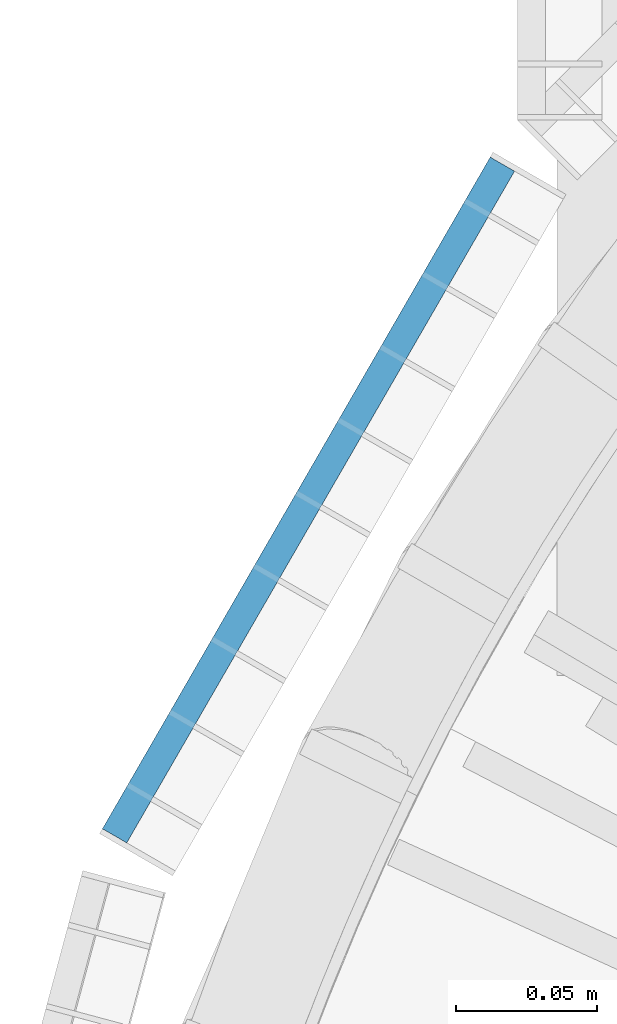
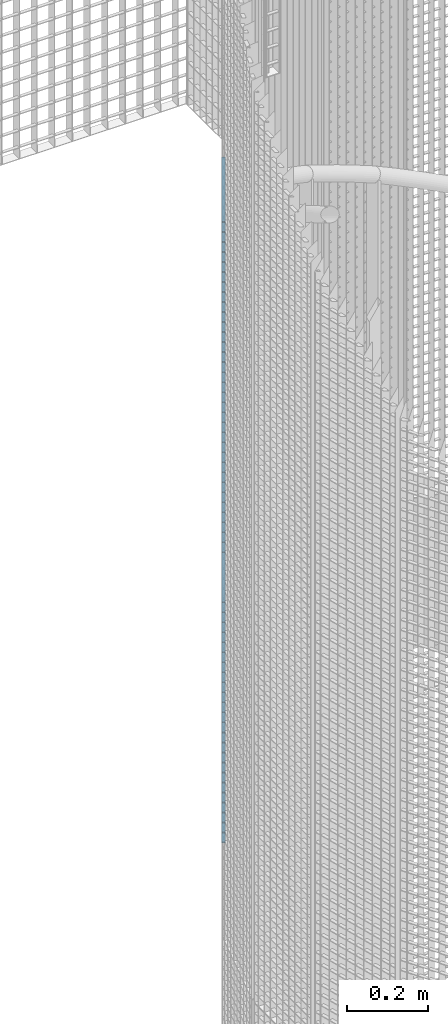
# One storey, part 208 of 1183: 59 beams, 1 element without a shape of its own.
"""IFC2X3 building model written with IfcOpenShell, lengths in millimetres."""

from ifc_helpers import new_model, si_unit, frame, origin_with_axes, origin_2d_with_axis, place, context, subcontext, project, spatial, rectangle, extrude, material, type_object, element, aggregate, save


model = new_model("IFC2X3")

# Units and contexts
model_context = context("Model", 3, precision=1e-05, world=origin_with_axes())
body_context = subcontext(model_context, "Body", "Model", "MODEL_VIEW")
ifc_project = project(units=[si_unit("LENGTHUNIT", "METRE", prefix="MILLI"), si_unit("AREAUNIT", "SQUARE_METRE"), si_unit("VOLUMEUNIT", "CUBIC_METRE"), si_unit("MASSUNIT", "GRAM", prefix="KILO"), si_unit("TIMEUNIT", "SECOND"), si_unit("PLANEANGLEUNIT", "RADIAN"), si_unit("SOLIDANGLEUNIT", "STERADIAN"), si_unit("THERMODYNAMICTEMPERATUREUNIT", "DEGREE_CELSIUS"), si_unit("LUMINOUSINTENSITYUNIT", "LUMEN")], contexts=[model_context])

# Site, building, storey
site_placement = place(None, origin_with_axes())
site = spatial("IfcSite", under=ifc_project, at=site_placement, Name="Undefined", CompositionType="ELEMENT")
building_placement = place(site_placement, origin_with_axes())
building = spatial("IfcBuilding", under=site, at=building_placement, Name="Undefined", CompositionType="ELEMENT")
storey_placement = place(building_placement, origin_with_axes())
storey = spatial("IfcBuildingStorey", under=building, at=storey_placement, Name="Undefined", CompositionType="ELEMENT", Elevation=0.0)

# Assembly, beams
assembly_placement = place(storey_placement, origin_with_axes())
assembly = element("IfcElementAssembly", 1, at=assembly_placement, inside=storey, Name="BORDURE", AssemblyPlace="NOTDEFINED", PredefinedType="NOTDEFINED")
ifc_material = material(Name="STEEL/S235JR")
beam_type = type_object("IfcBeamType", Name="PL2*10", PredefinedType="NOTDEFINED")
beam_1_placement = place(assembly_placement, frame((-895.303964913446, 676.248044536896, 5130.0), z_axis=(-0.866025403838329, 0.499999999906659, 0.0), x_axis=(-0.49999999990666, -0.866025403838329, 0.0)))
beam_1 = element("IfcBeam", 2, at=beam_1_placement, type_object=beam_type, material=ifc_material, Name="ENTRETOISE", context=body_context, shape_type="SweptSolid", body=[
    extrude(rectangle(XDim=2.0, YDim=10.0, at=origin_2d_with_axis()), frame((275.999999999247, 9.09494701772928e-13, 1.53210777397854e-14), z_axis=(-1.0, 0.0, 0.0), x_axis=(0.0, -1.0, 0.0)), (0.0, 0.0, 1.0), 276.0),
])
beam_2_placement = place(assembly_placement, frame((-895.303964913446, 676.248044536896, 5100.0), z_axis=(-0.866025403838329, 0.499999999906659, 0.0), x_axis=(-0.49999999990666, -0.866025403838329, 0.0)))
beam_2 = element("IfcBeam", 3, at=beam_2_placement, type_object=beam_type, material=ifc_material, Name="ENTRETOISE", context=body_context, shape_type="SweptSolid", body=[
    extrude(rectangle(XDim=2.0, YDim=10.0, at=origin_2d_with_axis()), frame((275.999999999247, 9.09494701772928e-13, 1.53210777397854e-14), z_axis=(-1.0, 0.0, 0.0), x_axis=(0.0, -1.0, 0.0)), (0.0, 0.0, 1.0), 276.0),
])
beam_3_placement = place(assembly_placement, frame((-895.303964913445, 676.248044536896, 5070.0), z_axis=(-0.866025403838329, 0.499999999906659, 0.0), x_axis=(-0.49999999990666, -0.866025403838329, 0.0)))
beam_3 = element("IfcBeam", 4, at=beam_3_placement, type_object=beam_type, material=ifc_material, Name="ENTRETOISE", context=body_context, shape_type="SweptSolid", body=[
    extrude(rectangle(XDim=2.0, YDim=10.0, at=origin_2d_with_axis()), frame((275.999999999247, 9.09494701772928e-13, 1.53210777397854e-14), z_axis=(-1.0, 0.0, 0.0), x_axis=(0.0, -1.0, 0.0)), (0.0, 0.0, 1.0), 276.0),
])
beam_4_placement = place(assembly_placement, frame((-895.303964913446, 676.248044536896, 5040.0), z_axis=(-0.866025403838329, 0.499999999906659, 0.0), x_axis=(-0.49999999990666, -0.866025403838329, 0.0)))
beam_4 = element("IfcBeam", 5, at=beam_4_placement, type_object=beam_type, material=ifc_material, Name="ENTRETOISE", context=body_context, shape_type="SweptSolid", body=[
    extrude(rectangle(XDim=2.0, YDim=10.0, at=origin_2d_with_axis()), frame((275.999999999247, 9.09494701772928e-13, 1.53210777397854e-14), z_axis=(-1.0, 0.0, 0.0), x_axis=(0.0, -1.0, 0.0)), (0.0, 0.0, 1.0), 276.0),
])
beam_5_placement = place(assembly_placement, frame((-895.303964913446, 676.248044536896, 5010.0), z_axis=(-0.866025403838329, 0.499999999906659, 0.0), x_axis=(-0.49999999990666, -0.866025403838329, 0.0)))
beam_5 = element("IfcBeam", 6, at=beam_5_placement, type_object=beam_type, material=ifc_material, Name="ENTRETOISE", context=body_context, shape_type="SweptSolid", body=[
    extrude(rectangle(XDim=2.0, YDim=10.0, at=origin_2d_with_axis()), frame((275.999999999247, 9.09494701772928e-13, 1.53210777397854e-14), z_axis=(-1.0, 0.0, 0.0), x_axis=(0.0, -1.0, 0.0)), (0.0, 0.0, 1.0), 276.0),
])
beam_6_placement = place(assembly_placement, frame((-895.303964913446, 676.248044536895, 4980.0), z_axis=(-0.866025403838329, 0.499999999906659, 0.0), x_axis=(-0.49999999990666, -0.866025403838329, 0.0)))
beam_6 = element("IfcBeam", 7, at=beam_6_placement, type_object=beam_type, material=ifc_material, Name="ENTRETOISE", context=body_context, shape_type="SweptSolid", body=[
    extrude(rectangle(XDim=2.0, YDim=10.0, at=origin_2d_with_axis()), frame((275.999999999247, 9.09494701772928e-13, 1.53210777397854e-14), z_axis=(-1.0, 0.0, 0.0), x_axis=(0.0, -1.0, 0.0)), (0.0, 0.0, 1.0), 276.0),
])
beam_7_placement = place(assembly_placement, frame((-895.303964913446, 676.248044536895, 4950.0), z_axis=(-0.866025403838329, 0.499999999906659, 0.0), x_axis=(-0.49999999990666, -0.866025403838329, 0.0)))
beam_7 = element("IfcBeam", 8, at=beam_7_placement, type_object=beam_type, material=ifc_material, Name="ENTRETOISE", context=body_context, shape_type="SweptSolid", body=[
    extrude(rectangle(XDim=2.0, YDim=10.0, at=origin_2d_with_axis()), frame((275.999999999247, 9.09494701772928e-13, 1.53210777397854e-14), z_axis=(-1.0, 0.0, 0.0), x_axis=(0.0, -1.0, 0.0)), (0.0, 0.0, 1.0), 276.0),
])
beam_8_placement = place(assembly_placement, frame((-895.303964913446, 676.248044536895, 4920.0), z_axis=(-0.866025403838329, 0.499999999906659, 0.0), x_axis=(-0.49999999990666, -0.866025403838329, 0.0)))
beam_8 = element("IfcBeam", 9, at=beam_8_placement, type_object=beam_type, material=ifc_material, Name="ENTRETOISE", context=body_context, shape_type="SweptSolid", body=[
    extrude(rectangle(XDim=2.0, YDim=10.0, at=origin_2d_with_axis()), frame((275.999999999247, 9.09494701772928e-13, 1.53210777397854e-14), z_axis=(-1.0, 0.0, 0.0), x_axis=(0.0, -1.0, 0.0)), (0.0, 0.0, 1.0), 276.0),
])
beam_9_placement = place(assembly_placement, frame((-895.303964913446, 676.248044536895, 4890.0), z_axis=(-0.866025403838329, 0.499999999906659, 0.0), x_axis=(-0.49999999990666, -0.866025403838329, 0.0)))
beam_9 = element("IfcBeam", 10, at=beam_9_placement, type_object=beam_type, material=ifc_material, Name="ENTRETOISE", context=body_context, shape_type="SweptSolid", body=[
    extrude(rectangle(XDim=2.0, YDim=10.0, at=origin_2d_with_axis()), frame((275.999999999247, 9.09494701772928e-13, 1.53210777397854e-14), z_axis=(-1.0, 0.0, 0.0), x_axis=(0.0, -1.0, 0.0)), (0.0, 0.0, 1.0), 276.0),
])
beam_10_placement = place(assembly_placement, frame((-895.303964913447, 676.248044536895, 4860.0), z_axis=(-0.866025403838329, 0.499999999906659, 0.0), x_axis=(-0.49999999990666, -0.866025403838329, 0.0)))
beam_10 = element("IfcBeam", 11, at=beam_10_placement, type_object=beam_type, material=ifc_material, Name="ENTRETOISE", context=body_context, shape_type="SweptSolid", body=[
    extrude(rectangle(XDim=2.0, YDim=10.0, at=origin_2d_with_axis()), frame((275.999999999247, 9.09494701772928e-13, 1.53210777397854e-14), z_axis=(-1.0, 0.0, 0.0), x_axis=(0.0, -1.0, 0.0)), (0.0, 0.0, 1.0), 276.0),
])
beam_11_placement = place(assembly_placement, frame((-895.303964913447, 676.248044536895, 4830.0), z_axis=(-0.866025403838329, 0.499999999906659, 0.0), x_axis=(-0.49999999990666, -0.866025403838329, 0.0)))
beam_11 = element("IfcBeam", 12, at=beam_11_placement, type_object=beam_type, material=ifc_material, Name="ENTRETOISE", context=body_context, shape_type="SweptSolid", body=[
    extrude(rectangle(XDim=2.0, YDim=10.0, at=origin_2d_with_axis()), frame((275.999999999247, 9.09494701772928e-13, 1.53210777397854e-14), z_axis=(-1.0, 0.0, 0.0), x_axis=(0.0, -1.0, 0.0)), (0.0, 0.0, 1.0), 276.0),
])
beam_12_placement = place(assembly_placement, frame((-895.303964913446, 676.248044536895, 4800.0), z_axis=(-0.866025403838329, 0.499999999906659, 0.0), x_axis=(-0.49999999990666, -0.866025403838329, 0.0)))
beam_12 = element("IfcBeam", 13, at=beam_12_placement, type_object=beam_type, material=ifc_material, Name="ENTRETOISE", context=body_context, shape_type="SweptSolid", body=[
    extrude(rectangle(XDim=2.0, YDim=10.0, at=origin_2d_with_axis()), frame((275.999999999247, 9.09494701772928e-13, 1.53210777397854e-14), z_axis=(-1.0, 0.0, 0.0), x_axis=(0.0, -1.0, 0.0)), (0.0, 0.0, 1.0), 276.0),
])
beam_13_placement = place(assembly_placement, frame((-895.303964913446, 676.248044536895, 4770.0), z_axis=(-0.866025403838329, 0.499999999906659, 0.0), x_axis=(-0.49999999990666, -0.866025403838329, 0.0)))
beam_13 = element("IfcBeam", 14, at=beam_13_placement, type_object=beam_type, material=ifc_material, Name="ENTRETOISE", context=body_context, shape_type="SweptSolid", body=[
    extrude(rectangle(XDim=2.0, YDim=10.0, at=origin_2d_with_axis()), frame((275.999999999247, 9.09494701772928e-13, 1.53210777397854e-14), z_axis=(-1.0, 0.0, 0.0), x_axis=(0.0, -1.0, 0.0)), (0.0, 0.0, 1.0), 276.0),
])
beam_14_placement = place(assembly_placement, frame((-895.303964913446, 676.248044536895, 4740.0), z_axis=(-0.866025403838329, 0.499999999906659, 0.0), x_axis=(-0.49999999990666, -0.866025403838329, 0.0)))
beam_14 = element("IfcBeam", 15, at=beam_14_placement, type_object=beam_type, material=ifc_material, Name="ENTRETOISE", context=body_context, shape_type="SweptSolid", body=[
    extrude(rectangle(XDim=2.0, YDim=10.0, at=origin_2d_with_axis()), frame((275.999999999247, 9.09494701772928e-13, 1.53210777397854e-14), z_axis=(-1.0, 0.0, 0.0), x_axis=(0.0, -1.0, 0.0)), (0.0, 0.0, 1.0), 276.0),
])
beam_15_placement = place(assembly_placement, frame((-895.303964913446, 676.248044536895, 4710.0), z_axis=(-0.866025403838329, 0.499999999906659, 0.0), x_axis=(-0.49999999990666, -0.866025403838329, 0.0)))
beam_15 = element("IfcBeam", 16, at=beam_15_placement, type_object=beam_type, material=ifc_material, Name="ENTRETOISE", context=body_context, shape_type="SweptSolid", body=[
    extrude(rectangle(XDim=2.0, YDim=10.0, at=origin_2d_with_axis()), frame((275.999999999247, 9.09494701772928e-13, 1.53210777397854e-14), z_axis=(-1.0, 0.0, 0.0), x_axis=(0.0, -1.0, 0.0)), (0.0, 0.0, 1.0), 276.0),
])
beam_16_placement = place(assembly_placement, frame((-895.303964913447, 676.248044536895, 4680.0), z_axis=(-0.866025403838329, 0.499999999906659, 0.0), x_axis=(-0.49999999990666, -0.866025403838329, 0.0)))
beam_16 = element("IfcBeam", 17, at=beam_16_placement, type_object=beam_type, material=ifc_material, Name="ENTRETOISE", context=body_context, shape_type="SweptSolid", body=[
    extrude(rectangle(XDim=2.0, YDim=10.0, at=origin_2d_with_axis()), frame((275.999999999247, 9.09494701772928e-13, 1.53210777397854e-14), z_axis=(-1.0, 0.0, 0.0), x_axis=(0.0, -1.0, 0.0)), (0.0, 0.0, 1.0), 276.0),
])
beam_17_placement = place(assembly_placement, frame((-895.303964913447, 676.248044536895, 4650.0), z_axis=(-0.866025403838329, 0.499999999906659, 0.0), x_axis=(-0.49999999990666, -0.866025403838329, 0.0)))
beam_17 = element("IfcBeam", 18, at=beam_17_placement, type_object=beam_type, material=ifc_material, Name="ENTRETOISE", context=body_context, shape_type="SweptSolid", body=[
    extrude(rectangle(XDim=2.0, YDim=10.0, at=origin_2d_with_axis()), frame((275.999999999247, 9.09494701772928e-13, 1.53210777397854e-14), z_axis=(-1.0, 0.0, 0.0), x_axis=(0.0, -1.0, 0.0)), (0.0, 0.0, 1.0), 276.0),
])
beam_18_placement = place(assembly_placement, frame((-895.303964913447, 676.248044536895, 4620.0), z_axis=(-0.866025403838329, 0.499999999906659, 0.0), x_axis=(-0.49999999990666, -0.866025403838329, 0.0)))
beam_18 = element("IfcBeam", 19, at=beam_18_placement, type_object=beam_type, material=ifc_material, Name="ENTRETOISE", context=body_context, shape_type="SweptSolid", body=[
    extrude(rectangle(XDim=2.0, YDim=10.0, at=origin_2d_with_axis()), frame((275.999999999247, 9.09494701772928e-13, 1.53210777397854e-14), z_axis=(-1.0, 0.0, 0.0), x_axis=(0.0, -1.0, 0.0)), (0.0, 0.0, 1.0), 276.0),
])
beam_19_placement = place(assembly_placement, frame((-895.303964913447, 676.248044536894, 4590.0), z_axis=(-0.866025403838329, 0.499999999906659, 0.0), x_axis=(-0.49999999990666, -0.866025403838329, 0.0)))
beam_19 = element("IfcBeam", 20, at=beam_19_placement, type_object=beam_type, material=ifc_material, Name="ENTRETOISE", context=body_context, shape_type="SweptSolid", body=[
    extrude(rectangle(XDim=2.0, YDim=10.0, at=origin_2d_with_axis()), frame((275.999999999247, 9.09494701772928e-13, 1.53210777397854e-14), z_axis=(-1.0, 0.0, 0.0), x_axis=(0.0, -1.0, 0.0)), (0.0, 0.0, 1.0), 276.0),
])
beam_20_placement = place(assembly_placement, frame((-895.303964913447, 676.248044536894, 4560.0), z_axis=(-0.866025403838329, 0.499999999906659, 0.0), x_axis=(-0.49999999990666, -0.866025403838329, 0.0)))
beam_20 = element("IfcBeam", 21, at=beam_20_placement, type_object=beam_type, material=ifc_material, Name="ENTRETOISE", context=body_context, shape_type="SweptSolid", body=[
    extrude(rectangle(XDim=2.0, YDim=10.0, at=origin_2d_with_axis()), frame((275.999999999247, 9.09494701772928e-13, 1.53210777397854e-14), z_axis=(-1.0, 0.0, 0.0), x_axis=(0.0, -1.0, 0.0)), (0.0, 0.0, 1.0), 276.0),
])
beam_21_placement = place(assembly_placement, frame((-895.303964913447, 676.248044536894, 4530.0), z_axis=(-0.866025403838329, 0.499999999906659, 0.0), x_axis=(-0.49999999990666, -0.866025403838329, 0.0)))
beam_21 = element("IfcBeam", 22, at=beam_21_placement, type_object=beam_type, material=ifc_material, Name="ENTRETOISE", context=body_context, shape_type="SweptSolid", body=[
    extrude(rectangle(XDim=2.0, YDim=10.0, at=origin_2d_with_axis()), frame((275.999999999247, 9.09494701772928e-13, 1.53210777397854e-14), z_axis=(-1.0, 0.0, 0.0), x_axis=(0.0, -1.0, 0.0)), (0.0, 0.0, 1.0), 276.0),
])
beam_22_placement = place(assembly_placement, frame((-895.303964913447, 676.248044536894, 4500.0), z_axis=(-0.866025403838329, 0.499999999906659, 0.0), x_axis=(-0.49999999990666, -0.866025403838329, 0.0)))
beam_22 = element("IfcBeam", 23, at=beam_22_placement, type_object=beam_type, material=ifc_material, Name="ENTRETOISE", context=body_context, shape_type="SweptSolid", body=[
    extrude(rectangle(XDim=2.0, YDim=10.0, at=origin_2d_with_axis()), frame((275.999999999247, 9.09494701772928e-13, 1.53210777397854e-14), z_axis=(-1.0, 0.0, 0.0), x_axis=(0.0, -1.0, 0.0)), (0.0, 0.0, 1.0), 276.0),
])
beam_23_placement = place(assembly_placement, frame((-895.303964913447, 676.248044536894, 4470.0), z_axis=(-0.866025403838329, 0.499999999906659, 0.0), x_axis=(-0.49999999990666, -0.866025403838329, 0.0)))
beam_23 = element("IfcBeam", 24, at=beam_23_placement, type_object=beam_type, material=ifc_material, Name="ENTRETOISE", context=body_context, shape_type="SweptSolid", body=[
    extrude(rectangle(XDim=2.0, YDim=10.0, at=origin_2d_with_axis()), frame((275.999999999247, 9.09494701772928e-13, 1.53210777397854e-14), z_axis=(-1.0, 0.0, 0.0), x_axis=(0.0, -1.0, 0.0)), (0.0, 0.0, 1.0), 276.0),
])
beam_24_placement = place(assembly_placement, frame((-895.303964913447, 676.248044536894, 4440.0), z_axis=(-0.866025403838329, 0.499999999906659, 0.0), x_axis=(-0.49999999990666, -0.866025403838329, 0.0)))
beam_24 = element("IfcBeam", 25, at=beam_24_placement, type_object=beam_type, material=ifc_material, Name="ENTRETOISE", context=body_context, shape_type="SweptSolid", body=[
    extrude(rectangle(XDim=2.0, YDim=10.0, at=origin_2d_with_axis()), frame((275.999999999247, 9.09494701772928e-13, 1.53210777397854e-14), z_axis=(-1.0, 0.0, 0.0), x_axis=(0.0, -1.0, 0.0)), (0.0, 0.0, 1.0), 276.0),
])
beam_25_placement = place(assembly_placement, frame((-895.303964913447, 676.248044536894, 4410.0), z_axis=(-0.866025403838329, 0.499999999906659, 0.0), x_axis=(-0.49999999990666, -0.866025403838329, 0.0)))
beam_25 = element("IfcBeam", 26, at=beam_25_placement, type_object=beam_type, material=ifc_material, Name="ENTRETOISE", context=body_context, shape_type="SweptSolid", body=[
    extrude(rectangle(XDim=2.0, YDim=10.0, at=origin_2d_with_axis()), frame((275.999999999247, 9.09494701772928e-13, 1.53210777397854e-14), z_axis=(-1.0, 0.0, 0.0), x_axis=(0.0, -1.0, 0.0)), (0.0, 0.0, 1.0), 276.0),
])
beam_26_placement = place(assembly_placement, frame((-895.303964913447, 676.248044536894, 4380.0), z_axis=(-0.866025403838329, 0.499999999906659, 0.0), x_axis=(-0.49999999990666, -0.866025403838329, 0.0)))
beam_26 = element("IfcBeam", 27, at=beam_26_placement, type_object=beam_type, material=ifc_material, Name="ENTRETOISE", context=body_context, shape_type="SweptSolid", body=[
    extrude(rectangle(XDim=2.0, YDim=10.0, at=origin_2d_with_axis()), frame((275.999999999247, 9.09494701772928e-13, 1.53210777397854e-14), z_axis=(-1.0, 0.0, 0.0), x_axis=(0.0, -1.0, 0.0)), (0.0, 0.0, 1.0), 276.0),
])
beam_27_placement = place(assembly_placement, frame((-895.303964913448, 676.248044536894, 4350.0), z_axis=(-0.866025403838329, 0.499999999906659, 0.0), x_axis=(-0.49999999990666, -0.866025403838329, 0.0)))
beam_27 = element("IfcBeam", 28, at=beam_27_placement, type_object=beam_type, material=ifc_material, Name="ENTRETOISE", context=body_context, shape_type="SweptSolid", body=[
    extrude(rectangle(XDim=2.0, YDim=10.0, at=origin_2d_with_axis()), frame((275.999999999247, 9.09494701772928e-13, 1.53210777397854e-14), z_axis=(-1.0, 0.0, 0.0), x_axis=(0.0, -1.0, 0.0)), (0.0, 0.0, 1.0), 276.0),
])
beam_28_placement = place(assembly_placement, frame((-895.303964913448, 676.248044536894, 4320.0), z_axis=(-0.866025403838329, 0.499999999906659, 0.0), x_axis=(-0.49999999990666, -0.866025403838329, 0.0)))
beam_28 = element("IfcBeam", 29, at=beam_28_placement, type_object=beam_type, material=ifc_material, Name="ENTRETOISE", context=body_context, shape_type="SweptSolid", body=[
    extrude(rectangle(XDim=2.0, YDim=10.0, at=origin_2d_with_axis()), frame((275.999999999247, 9.09494701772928e-13, 1.53210777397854e-14), z_axis=(-1.0, 0.0, 0.0), x_axis=(0.0, -1.0, 0.0)), (0.0, 0.0, 1.0), 276.0),
])
beam_29_placement = place(assembly_placement, frame((-895.303964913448, 676.248044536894, 4290.0), z_axis=(-0.866025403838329, 0.499999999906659, 0.0), x_axis=(-0.49999999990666, -0.866025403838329, 0.0)))
beam_29 = element("IfcBeam", 30, at=beam_29_placement, type_object=beam_type, material=ifc_material, Name="ENTRETOISE", context=body_context, shape_type="SweptSolid", body=[
    extrude(rectangle(XDim=2.0, YDim=10.0, at=origin_2d_with_axis()), frame((275.999999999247, 9.09494701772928e-13, 1.53210777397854e-14), z_axis=(-1.0, 0.0, 0.0), x_axis=(0.0, -1.0, 0.0)), (0.0, 0.0, 1.0), 276.0),
])
beam_30_placement = place(assembly_placement, frame((-895.303964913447, 676.248044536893, 4260.0), z_axis=(-0.866025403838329, 0.499999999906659, 0.0), x_axis=(-0.49999999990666, -0.866025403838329, 0.0)))
beam_30 = element("IfcBeam", 31, at=beam_30_placement, type_object=beam_type, material=ifc_material, Name="ENTRETOISE", context=body_context, shape_type="SweptSolid", body=[
    extrude(rectangle(XDim=2.0, YDim=10.0, at=origin_2d_with_axis()), frame((275.999999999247, 9.09494701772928e-13, 1.53210777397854e-14), z_axis=(-1.0, 0.0, 0.0), x_axis=(0.0, -1.0, 0.0)), (0.0, 0.0, 1.0), 276.0),
])
beam_31_placement = place(assembly_placement, frame((-895.303964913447, 676.248044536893, 4230.0), z_axis=(-0.866025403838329, 0.499999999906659, 0.0), x_axis=(-0.49999999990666, -0.866025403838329, 0.0)))
beam_31 = element("IfcBeam", 32, at=beam_31_placement, type_object=beam_type, material=ifc_material, Name="ENTRETOISE", context=body_context, shape_type="SweptSolid", body=[
    extrude(rectangle(XDim=2.0, YDim=10.0, at=origin_2d_with_axis()), frame((275.999999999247, 9.09494701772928e-13, 1.53210777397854e-14), z_axis=(-1.0, 0.0, 0.0), x_axis=(0.0, -1.0, 0.0)), (0.0, 0.0, 1.0), 276.0),
])
beam_32_placement = place(assembly_placement, frame((-895.303964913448, 676.248044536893, 4200.0), z_axis=(-0.866025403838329, 0.499999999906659, 0.0), x_axis=(-0.49999999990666, -0.866025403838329, 0.0)))
beam_32 = element("IfcBeam", 33, at=beam_32_placement, type_object=beam_type, material=ifc_material, Name="ENTRETOISE", context=body_context, shape_type="SweptSolid", body=[
    extrude(rectangle(XDim=2.0, YDim=10.0, at=origin_2d_with_axis()), frame((275.999999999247, 9.09494701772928e-13, 1.53210777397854e-14), z_axis=(-1.0, 0.0, 0.0), x_axis=(0.0, -1.0, 0.0)), (0.0, 0.0, 1.0), 276.0),
])
beam_33_placement = place(assembly_placement, frame((-895.303964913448, 676.248044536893, 4170.0), z_axis=(-0.866025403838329, 0.499999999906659, 0.0), x_axis=(-0.49999999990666, -0.866025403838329, 0.0)))
beam_33 = element("IfcBeam", 34, at=beam_33_placement, type_object=beam_type, material=ifc_material, Name="ENTRETOISE", context=body_context, shape_type="SweptSolid", body=[
    extrude(rectangle(XDim=2.0, YDim=10.0, at=origin_2d_with_axis()), frame((275.999999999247, 9.09494701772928e-13, 1.53210777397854e-14), z_axis=(-1.0, 0.0, 0.0), x_axis=(0.0, -1.0, 0.0)), (0.0, 0.0, 1.0), 276.0),
])
beam_34_placement = place(assembly_placement, frame((-895.303964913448, 676.248044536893, 4140.0), z_axis=(-0.866025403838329, 0.499999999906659, 0.0), x_axis=(-0.49999999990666, -0.866025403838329, 0.0)))
beam_34 = element("IfcBeam", 35, at=beam_34_placement, type_object=beam_type, material=ifc_material, Name="ENTRETOISE", context=body_context, shape_type="SweptSolid", body=[
    extrude(rectangle(XDim=2.0, YDim=10.0, at=origin_2d_with_axis()), frame((275.999999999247, 9.09494701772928e-13, 1.53210777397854e-14), z_axis=(-1.0, 0.0, 0.0), x_axis=(0.0, -1.0, 0.0)), (0.0, 0.0, 1.0), 276.0),
])
beam_35_placement = place(assembly_placement, frame((-895.303964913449, 676.248044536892, 3720.0), z_axis=(-0.866025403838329, 0.499999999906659, 0.0), x_axis=(-0.49999999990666, -0.866025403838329, 0.0)))
beam_35 = element("IfcBeam", 36, at=beam_35_placement, type_object=beam_type, material=ifc_material, Name="ENTRETOISE", context=body_context, shape_type="SweptSolid", body=[
    extrude(rectangle(XDim=2.0, YDim=10.0, at=origin_2d_with_axis()), frame((275.999999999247, 9.09494701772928e-13, 1.53210777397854e-14), z_axis=(-1.0, 0.0, 0.0), x_axis=(0.0, -1.0, 0.0)), (0.0, 0.0, 1.0), 276.0),
])
beam_36_placement = place(assembly_placement, frame((-895.303964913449, 676.248044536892, 3690.0), z_axis=(-0.866025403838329, 0.499999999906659, 0.0), x_axis=(-0.49999999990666, -0.866025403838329, 0.0)))
beam_36 = element("IfcBeam", 37, at=beam_36_placement, type_object=beam_type, material=ifc_material, Name="ENTRETOISE", context=body_context, shape_type="SweptSolid", body=[
    extrude(rectangle(XDim=2.0, YDim=10.0, at=origin_2d_with_axis()), frame((275.999999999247, 9.09494701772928e-13, 1.53210777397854e-14), z_axis=(-1.0, 0.0, 0.0), x_axis=(0.0, -1.0, 0.0)), (0.0, 0.0, 1.0), 276.0),
])
beam_37_placement = place(assembly_placement, frame((-895.303964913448, 676.248044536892, 3750.0), z_axis=(-0.866025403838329, 0.499999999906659, 0.0), x_axis=(-0.49999999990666, -0.866025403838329, 0.0)))
beam_37 = element("IfcBeam", 38, at=beam_37_placement, type_object=beam_type, material=ifc_material, Name="ENTRETOISE", context=body_context, shape_type="SweptSolid", body=[
    extrude(rectangle(XDim=2.0, YDim=10.0, at=origin_2d_with_axis()), frame((275.999999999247, 9.09494701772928e-13, 1.53210777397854e-14), z_axis=(-1.0, 0.0, 0.0), x_axis=(0.0, -1.0, 0.0)), (0.0, 0.0, 1.0), 276.0),
])
beam_38_placement = place(assembly_placement, frame((-895.303964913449, 676.248044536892, 3660.0), z_axis=(-0.866025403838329, 0.499999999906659, 0.0), x_axis=(-0.49999999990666, -0.866025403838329, 0.0)))
beam_38 = element("IfcBeam", 39, at=beam_38_placement, type_object=beam_type, material=ifc_material, Name="ENTRETOISE", context=body_context, shape_type="SweptSolid", body=[
    extrude(rectangle(XDim=2.0, YDim=10.0, at=origin_2d_with_axis()), frame((275.999999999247, 9.09494701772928e-13, 1.53210777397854e-14), z_axis=(-1.0, 0.0, 0.0), x_axis=(0.0, -1.0, 0.0)), (0.0, 0.0, 1.0), 276.0),
])
beam_39_placement = place(assembly_placement, frame((-895.303964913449, 676.248044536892, 3630.0), z_axis=(-0.866025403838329, 0.499999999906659, 0.0), x_axis=(-0.49999999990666, -0.866025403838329, 0.0)))
beam_39 = element("IfcBeam", 40, at=beam_39_placement, type_object=beam_type, material=ifc_material, Name="ENTRETOISE", context=body_context, shape_type="SweptSolid", body=[
    extrude(rectangle(XDim=2.0, YDim=10.0, at=origin_2d_with_axis()), frame((275.999999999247, 9.09494701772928e-13, 1.53210777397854e-14), z_axis=(-1.0, 0.0, 0.0), x_axis=(0.0, -1.0, 0.0)), (0.0, 0.0, 1.0), 276.0),
])
beam_40_placement = place(assembly_placement, frame((-895.303964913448, 676.248044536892, 3780.0), z_axis=(-0.866025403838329, 0.499999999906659, 0.0), x_axis=(-0.49999999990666, -0.866025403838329, 0.0)))
beam_40 = element("IfcBeam", 41, at=beam_40_placement, type_object=beam_type, material=ifc_material, Name="ENTRETOISE", context=body_context, shape_type="SweptSolid", body=[
    extrude(rectangle(XDim=2.0, YDim=10.0, at=origin_2d_with_axis()), frame((275.999999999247, 9.09494701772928e-13, 1.53210777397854e-14), z_axis=(-1.0, 0.0, 0.0), x_axis=(0.0, -1.0, 0.0)), (0.0, 0.0, 1.0), 276.0),
])
beam_41_placement = place(assembly_placement, frame((-895.303964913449, 676.248044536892, 3600.0), z_axis=(-0.866025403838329, 0.499999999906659, 0.0), x_axis=(-0.49999999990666, -0.866025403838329, 0.0)))
beam_41 = element("IfcBeam", 42, at=beam_41_placement, type_object=beam_type, material=ifc_material, Name="ENTRETOISE", context=body_context, shape_type="SweptSolid", body=[
    extrude(rectangle(XDim=2.0, YDim=10.0, at=origin_2d_with_axis()), frame((275.999999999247, 9.09494701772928e-13, 1.53210777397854e-14), z_axis=(-1.0, 0.0, 0.0), x_axis=(0.0, -1.0, 0.0)), (0.0, 0.0, 1.0), 276.0),
])
beam_42_placement = place(assembly_placement, frame((-895.303964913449, 676.248044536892, 3810.0), z_axis=(-0.866025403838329, 0.499999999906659, 0.0), x_axis=(-0.49999999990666, -0.866025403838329, 0.0)))
beam_42 = element("IfcBeam", 43, at=beam_42_placement, type_object=beam_type, material=ifc_material, Name="ENTRETOISE", context=body_context, shape_type="SweptSolid", body=[
    extrude(rectangle(XDim=2.0, YDim=10.0, at=origin_2d_with_axis()), frame((275.999999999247, 9.09494701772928e-13, 1.53210777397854e-14), z_axis=(-1.0, 0.0, 0.0), x_axis=(0.0, -1.0, 0.0)), (0.0, 0.0, 1.0), 276.0),
])
beam_43_placement = place(assembly_placement, frame((-895.303964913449, 676.248044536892, 3570.0), z_axis=(-0.866025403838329, 0.499999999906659, 0.0), x_axis=(-0.49999999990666, -0.866025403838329, 0.0)))
beam_43 = element("IfcBeam", 44, at=beam_43_placement, type_object=beam_type, material=ifc_material, Name="ENTRETOISE", context=body_context, shape_type="SweptSolid", body=[
    extrude(rectangle(XDim=2.0, YDim=10.0, at=origin_2d_with_axis()), frame((275.999999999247, 9.09494701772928e-13, 1.53210777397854e-14), z_axis=(-1.0, 0.0, 0.0), x_axis=(0.0, -1.0, 0.0)), (0.0, 0.0, 1.0), 276.0),
])
beam_44_placement = place(assembly_placement, frame((-895.303964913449, 676.248044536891, 3540.0), z_axis=(-0.866025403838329, 0.499999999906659, 0.0), x_axis=(-0.49999999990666, -0.866025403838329, 0.0)))
beam_44 = element("IfcBeam", 45, at=beam_44_placement, type_object=beam_type, material=ifc_material, Name="ENTRETOISE", context=body_context, shape_type="SweptSolid", body=[
    extrude(rectangle(XDim=2.0, YDim=10.0, at=origin_2d_with_axis()), frame((275.999999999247, 9.09494701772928e-13, 1.53210777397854e-14), z_axis=(-1.0, 0.0, 0.0), x_axis=(0.0, -1.0, 0.0)), (0.0, 0.0, 1.0), 276.0),
])
beam_45_placement = place(assembly_placement, frame((-895.303964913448, 676.248044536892, 3840.0), z_axis=(-0.866025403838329, 0.499999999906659, 0.0), x_axis=(-0.49999999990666, -0.866025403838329, 0.0)))
beam_45 = element("IfcBeam", 46, at=beam_45_placement, type_object=beam_type, material=ifc_material, Name="ENTRETOISE", context=body_context, shape_type="SweptSolid", body=[
    extrude(rectangle(XDim=2.0, YDim=10.0, at=origin_2d_with_axis()), frame((275.999999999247, 9.09494701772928e-13, 1.53210777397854e-14), z_axis=(-1.0, 0.0, 0.0), x_axis=(0.0, -1.0, 0.0)), (0.0, 0.0, 1.0), 276.0),
])
beam_46_placement = place(assembly_placement, frame((-895.303964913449, 676.248044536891, 3510.0), z_axis=(-0.866025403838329, 0.499999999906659, 0.0), x_axis=(-0.49999999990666, -0.866025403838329, 0.0)))
beam_46 = element("IfcBeam", 47, at=beam_46_placement, type_object=beam_type, material=ifc_material, Name="ENTRETOISE", context=body_context, shape_type="SweptSolid", body=[
    extrude(rectangle(XDim=2.0, YDim=10.0, at=origin_2d_with_axis()), frame((275.999999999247, 9.09494701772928e-13, 1.53210777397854e-14), z_axis=(-1.0, 0.0, 0.0), x_axis=(0.0, -1.0, 0.0)), (0.0, 0.0, 1.0), 276.0),
])
beam_47_placement = place(assembly_placement, frame((-895.303964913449, 676.248044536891, 3480.0), z_axis=(-0.866025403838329, 0.499999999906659, 0.0), x_axis=(-0.49999999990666, -0.866025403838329, 0.0)))
beam_47 = element("IfcBeam", 48, at=beam_47_placement, type_object=beam_type, material=ifc_material, Name="ENTRETOISE", context=body_context, shape_type="SweptSolid", body=[
    extrude(rectangle(XDim=2.0, YDim=10.0, at=origin_2d_with_axis()), frame((275.999999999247, 9.09494701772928e-13, 1.53210777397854e-14), z_axis=(-1.0, 0.0, 0.0), x_axis=(0.0, -1.0, 0.0)), (0.0, 0.0, 1.0), 276.0),
])
beam_48_placement = place(assembly_placement, frame((-895.303964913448, 676.248044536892, 3870.0), z_axis=(-0.866025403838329, 0.499999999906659, 0.0), x_axis=(-0.49999999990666, -0.866025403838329, 0.0)))
beam_48 = element("IfcBeam", 49, at=beam_48_placement, type_object=beam_type, material=ifc_material, Name="ENTRETOISE", context=body_context, shape_type="SweptSolid", body=[
    extrude(rectangle(XDim=2.0, YDim=10.0, at=origin_2d_with_axis()), frame((275.999999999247, 9.09494701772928e-13, 1.53210777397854e-14), z_axis=(-1.0, 0.0, 0.0), x_axis=(0.0, -1.0, 0.0)), (0.0, 0.0, 1.0), 276.0),
])
beam_49_placement = place(assembly_placement, frame((-895.303964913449, 676.248044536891, 3450.0), z_axis=(-0.866025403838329, 0.499999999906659, 0.0), x_axis=(-0.49999999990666, -0.866025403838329, 0.0)))
beam_49 = element("IfcBeam", 50, at=beam_49_placement, type_object=beam_type, material=ifc_material, Name="ENTRETOISE", context=body_context, shape_type="SweptSolid", body=[
    extrude(rectangle(XDim=2.0, YDim=10.0, at=origin_2d_with_axis()), frame((275.999999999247, 9.09494701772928e-13, 1.53210777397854e-14), z_axis=(-1.0, 0.0, 0.0), x_axis=(0.0, -1.0, 0.0)), (0.0, 0.0, 1.0), 276.0),
])
beam_50_placement = place(assembly_placement, frame((-895.303964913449, 676.248044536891, 3420.0), z_axis=(-0.866025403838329, 0.499999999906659, 0.0), x_axis=(-0.49999999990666, -0.866025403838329, 0.0)))
beam_50 = element("IfcBeam", 51, at=beam_50_placement, type_object=beam_type, material=ifc_material, Name="ENTRETOISE", context=body_context, shape_type="SweptSolid", body=[
    extrude(rectangle(XDim=2.0, YDim=10.0, at=origin_2d_with_axis()), frame((275.999999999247, 9.09494701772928e-13, 1.53210777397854e-14), z_axis=(-1.0, 0.0, 0.0), x_axis=(0.0, -1.0, 0.0)), (0.0, 0.0, 1.0), 276.0),
])
beam_51_placement = place(assembly_placement, frame((-895.303964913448, 676.248044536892, 3900.0), z_axis=(-0.866025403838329, 0.499999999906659, 0.0), x_axis=(-0.49999999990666, -0.866025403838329, 0.0)))
beam_51 = element("IfcBeam", 52, at=beam_51_placement, type_object=beam_type, material=ifc_material, Name="ENTRETOISE", context=body_context, shape_type="SweptSolid", body=[
    extrude(rectangle(XDim=2.0, YDim=10.0, at=origin_2d_with_axis()), frame((275.999999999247, 9.09494701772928e-13, 1.53210777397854e-14), z_axis=(-1.0, 0.0, 0.0), x_axis=(0.0, -1.0, 0.0)), (0.0, 0.0, 1.0), 276.0),
])
beam_52_placement = place(assembly_placement, frame((-895.30396491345, 676.248044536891, 3390.0), z_axis=(-0.866025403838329, 0.499999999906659, 0.0), x_axis=(-0.49999999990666, -0.866025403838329, 0.0)))
beam_52 = element("IfcBeam", 53, at=beam_52_placement, type_object=beam_type, material=ifc_material, Name="ENTRETOISE", context=body_context, shape_type="SweptSolid", body=[
    extrude(rectangle(XDim=2.0, YDim=10.0, at=origin_2d_with_axis()), frame((275.999999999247, 9.09494701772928e-13, 1.53210777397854e-14), z_axis=(-1.0, 0.0, 0.0), x_axis=(0.0, -1.0, 0.0)), (0.0, 0.0, 1.0), 276.0),
])
beam_53_placement = place(assembly_placement, frame((-895.303964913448, 676.248044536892, 3930.0), z_axis=(-0.866025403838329, 0.499999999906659, 0.0), x_axis=(-0.49999999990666, -0.866025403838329, 0.0)))
beam_53 = element("IfcBeam", 54, at=beam_53_placement, type_object=beam_type, material=ifc_material, Name="ENTRETOISE", context=body_context, shape_type="SweptSolid", body=[
    extrude(rectangle(XDim=2.0, YDim=10.0, at=origin_2d_with_axis()), frame((275.999999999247, 9.09494701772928e-13, 1.53210777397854e-14), z_axis=(-1.0, 0.0, 0.0), x_axis=(0.0, -1.0, 0.0)), (0.0, 0.0, 1.0), 276.0),
])
beam_54_placement = place(assembly_placement, frame((-895.30396491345, 676.248044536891, 3360.0), z_axis=(-0.866025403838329, 0.499999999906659, 0.0), x_axis=(-0.49999999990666, -0.866025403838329, 0.0)))
beam_54 = element("IfcBeam", 55, at=beam_54_placement, type_object=beam_type, material=ifc_material, Name="ENTRETOISE", context=body_context, shape_type="SweptSolid", body=[
    extrude(rectangle(XDim=2.0, YDim=10.0, at=origin_2d_with_axis()), frame((275.999999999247, 9.09494701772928e-13, 1.53210777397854e-14), z_axis=(-1.0, 0.0, 0.0), x_axis=(0.0, -1.0, 0.0)), (0.0, 0.0, 1.0), 276.0),
])
beam_55_placement = place(assembly_placement, frame((-895.303964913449, 676.248044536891, 3330.0), z_axis=(-0.866025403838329, 0.499999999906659, 0.0), x_axis=(-0.49999999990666, -0.866025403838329, 0.0)))
beam_55 = element("IfcBeam", 56, at=beam_55_placement, type_object=beam_type, material=ifc_material, Name="ENTRETOISE", context=body_context, shape_type="SweptSolid", body=[
    extrude(rectangle(XDim=2.0, YDim=10.0, at=origin_2d_with_axis()), frame((275.999999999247, 9.09494701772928e-13, 1.53210777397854e-14), z_axis=(-1.0, 0.0, 0.0), x_axis=(0.0, -1.0, 0.0)), (0.0, 0.0, 1.0), 276.0),
])
beam_56_placement = place(assembly_placement, frame((-895.303964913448, 676.248044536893, 3960.0), z_axis=(-0.866025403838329, 0.499999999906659, 0.0), x_axis=(-0.49999999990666, -0.866025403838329, 0.0)))
beam_56 = element("IfcBeam", 57, at=beam_56_placement, type_object=beam_type, material=ifc_material, Name="ENTRETOISE", context=body_context, shape_type="SweptSolid", body=[
    extrude(rectangle(XDim=2.0, YDim=10.0, at=origin_2d_with_axis()), frame((275.999999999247, 9.09494701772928e-13, 1.53210777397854e-14), z_axis=(-1.0, 0.0, 0.0), x_axis=(0.0, -1.0, 0.0)), (0.0, 0.0, 1.0), 276.0),
])
beam_57_placement = place(assembly_placement, frame((-895.303964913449, 676.248044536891, 3300.0), z_axis=(-0.866025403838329, 0.499999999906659, 0.0), x_axis=(-0.49999999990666, -0.866025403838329, 0.0)))
beam_57 = element("IfcBeam", 58, at=beam_57_placement, type_object=beam_type, material=ifc_material, Name="ENTRETOISE", context=body_context, shape_type="SweptSolid", body=[
    extrude(rectangle(XDim=2.0, YDim=10.0, at=origin_2d_with_axis()), frame((275.999999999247, 9.09494701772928e-13, 1.53210777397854e-14), z_axis=(-1.0, 0.0, 0.0), x_axis=(0.0, -1.0, 0.0)), (0.0, 0.0, 1.0), 276.0),
])
beam_58_placement = place(assembly_placement, frame((-895.303964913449, 676.248044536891, 3270.0), z_axis=(-0.866025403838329, 0.499999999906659, 0.0), x_axis=(-0.49999999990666, -0.866025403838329, 0.0)))
beam_58 = element("IfcBeam", 59, at=beam_58_placement, type_object=beam_type, material=ifc_material, Name="ENTRETOISE", context=body_context, shape_type="SweptSolid", body=[
    extrude(rectangle(XDim=2.0, YDim=10.0, at=origin_2d_with_axis()), frame((275.999999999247, 9.09494701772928e-13, 1.53210777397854e-14), z_axis=(-1.0, 0.0, 0.0), x_axis=(0.0, -1.0, 0.0)), (0.0, 0.0, 1.0), 276.0),
])
beam_59_placement = place(assembly_placement, frame((-895.303964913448, 676.248044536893, 3990.0), z_axis=(-0.866025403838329, 0.499999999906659, 0.0), x_axis=(-0.49999999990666, -0.866025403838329, 0.0)))
beam_59 = element("IfcBeam", 60, at=beam_59_placement, type_object=beam_type, material=ifc_material, Name="ENTRETOISE", context=body_context, shape_type="SweptSolid", body=[
    extrude(rectangle(XDim=2.0, YDim=10.0, at=origin_2d_with_axis()), frame((275.999999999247, 9.09494701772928e-13, 1.53210777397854e-14), z_axis=(-1.0, 0.0, 0.0), x_axis=(0.0, -1.0, 0.0)), (0.0, 0.0, 1.0), 276.0),
])
aggregate(assembly, [beam_1, beam_2, beam_3, beam_4, beam_5, beam_6, beam_7, beam_8, beam_9, beam_10, beam_11, beam_12, beam_13, beam_14, beam_15, beam_16, beam_17, beam_18, beam_19, beam_20, beam_21, beam_22, beam_23, beam_24, beam_25, beam_26, beam_27, beam_28, beam_29, beam_30, beam_31, beam_32, beam_33, beam_34, beam_35, beam_36, beam_37, beam_38, beam_39, beam_40, beam_41, beam_42, beam_43, beam_44, beam_45, beam_46, beam_47, beam_48, beam_49, beam_50, beam_51, beam_52, beam_53, beam_54, beam_55, beam_56, beam_57, beam_58, beam_59])

save(model, "model.ifc")
